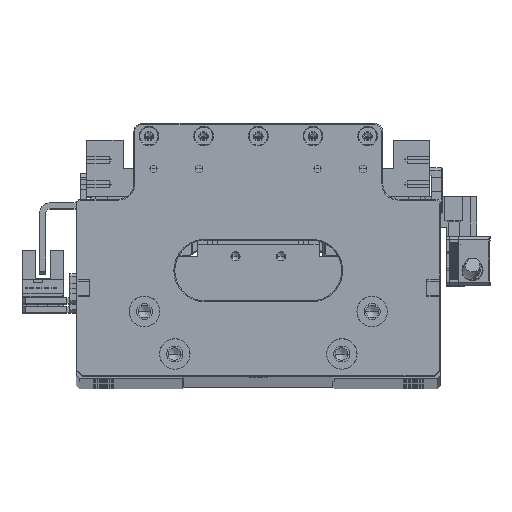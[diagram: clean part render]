
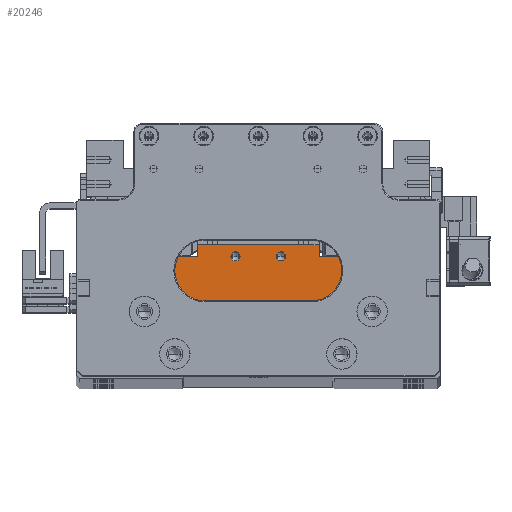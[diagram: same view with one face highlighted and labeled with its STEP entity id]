
A CAD part, top view. The second image highlights one B-rep face of the part: STEP entity #20246.
In plain terms, the highlighted planar face has unit normal (0, 0, 1).
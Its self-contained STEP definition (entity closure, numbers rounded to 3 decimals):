
#781 = VERTEX_POINT ( 'NONE', #91298 ) ;
#782 = CARTESIAN_POINT ( 'NONE',  ( -62.625, 78.98, 462.722 ) ) ;
#2459 = DIRECTION ( 'NONE',  ( 1., 0., 0. ) ) ;
#2929 = ORIENTED_EDGE ( 'NONE', *, *, #95220, .F. ) ;
#4229 = VERTEX_POINT ( 'NONE', #90649 ) ;
#5037 = DIRECTION ( 'NONE',  ( 0., -1., 0. ) ) ;
#5490 = AXIS2_PLACEMENT_3D ( 'NONE', #47531, #121405, #58156 ) ;
#8597 = CARTESIAN_POINT ( 'NONE',  ( -90.125, 71.48, 462.722 ) ) ;
#8913 = CARTESIAN_POINT ( 'NONE',  ( -90.125, 59.78, 462.722 ) ) ;
#10175 = LINE ( 'NONE', #65530, #119361 ) ;
#13093 = FACE_BOUND ( 'NONE', #55616, .T. ) ;
#13234 = CARTESIAN_POINT ( 'NONE',  ( -52.725, 78.98, 462.722 ) ) ;
#14842 = CIRCLE ( 'NONE', #43362, 1.525 ) ;
#15429 = VERTEX_POINT ( 'NONE', #86061 ) ;
#16059 = EDGE_CURVE ( 'NONE', #79520, #19251, #61362, .T. ) ;
#19251 = VERTEX_POINT ( 'NONE', #782 ) ;
#19969 = EDGE_CURVE ( 'NONE', #781, #15429, #14842, .T. ) ;
#20246 = ADVANCED_FACE ( 'NONE', ( #72671, #94116, #13093 ), #40563, .F. ) ;
#21129 = VECTOR ( 'NONE', #58658, 1000. ) ;
#22496 = ORIENTED_EDGE ( 'NONE', *, *, #30063, .F. ) ;
#24850 = EDGE_CURVE ( 'NONE', #125064, #79520, #31971, .T. ) ;
#24871 = ORIENTED_EDGE ( 'NONE', *, *, #93473, .F. ) ;
#25562 = VERTEX_POINT ( 'NONE', #113225 ) ;
#25855 = EDGE_CURVE ( 'NONE', #19251, #43648, #10175, .T. ) ;
#25968 = VERTEX_POINT ( 'NONE', #88531 ) ;
#27926 = CARTESIAN_POINT ( 'NONE',  ( -90.125, 82.98, 462.722 ) ) ;
#28221 = VERTEX_POINT ( 'NONE', #44915 ) ;
#29119 = CARTESIAN_POINT ( 'NONE',  ( -76.65, 79.08, 462.722 ) ) ;
#30063 = EDGE_CURVE ( 'NONE', #43648, #25968, #31080, .T. ) ;
#31080 = LINE ( 'NONE', #48070, #21129 ) ;
#31971 = LINE ( 'NONE', #27926, #50260 ) ;
#34336 = EDGE_CURVE ( 'NONE', #111077, #25562, #118713, .T. ) ;
#36964 = LINE ( 'NONE', #8913, #65011 ) ;
#37766 = ORIENTED_EDGE ( 'NONE', *, *, #34336, .F. ) ;
#39410 = AXIS2_PLACEMENT_3D ( 'NONE', #105281, #42103, #115984 ) ;
#40563 = PLANE ( 'NONE',  #69008 ) ;
#40900 = ORIENTED_EDGE ( 'NONE', *, *, #19969, .F. ) ;
#42103 = DIRECTION ( 'NONE',  ( 0., 0., 1. ) ) ;
#43362 = AXIS2_PLACEMENT_3D ( 'NONE', #121011, #57763, #131618 ) ;
#43648 = VERTEX_POINT ( 'NONE', #13234 ) ;
#44502 = EDGE_CURVE ( 'NONE', #4229, #125064, #51601, .T. ) ;
#44915 = CARTESIAN_POINT ( 'NONE',  ( -112.525, 78.98, 462.722 ) ) ;
#46630 = EDGE_LOOP ( 'NONE', ( #70647, #2929, #66088, #22496, #73667, #57524, #62625, #115420 ) ) ;
#46861 = EDGE_LOOP ( 'NONE', ( #49821, #37766 ) ) ;
#47531 = CARTESIAN_POINT ( 'NONE',  ( -75.125, 79.08, 462.722 ) ) ;
#48070 = CARTESIAN_POINT ( 'NONE',  ( -52.725, 71.48, 462.722 ) ) ;
#49821 = ORIENTED_EDGE ( 'NONE', *, *, #53397, .F. ) ;
#50260 = VECTOR ( 'NONE', #122638, 1000. ) ;
#51254 = DIRECTION ( 'NONE',  ( -1., 0., 0. ) ) ;
#51601 = LINE ( 'NONE', #71990, #76265 ) ;
#52647 = VECTOR ( 'NONE', #123003, 1000. ) ;
#53397 = EDGE_CURVE ( 'NONE', #25562, #111077, #108128, .T. ) ;
#55616 = EDGE_LOOP ( 'NONE', ( #40900, #24871 ) ) ;
#57105 = VECTOR ( 'NONE', #82236, 1000. ) ;
#57524 = ORIENTED_EDGE ( 'NONE', *, *, #16059, .F. ) ;
#57763 = DIRECTION ( 'NONE',  ( 0., 0., 1. ) ) ;
#58156 = DIRECTION ( 'NONE',  ( 1., 0., 0. ) ) ;
#58658 = DIRECTION ( 'NONE',  ( 0., -1., 0. ) ) ;
#61362 = LINE ( 'NONE', #110453, #100936 ) ;
#62625 = ORIENTED_EDGE ( 'NONE', *, *, #24850, .F. ) ;
#65011 = VECTOR ( 'NONE', #82842, 1000. ) ;
#65530 = CARTESIAN_POINT ( 'NONE',  ( -90.125, 78.98, 462.722 ) ) ;
#65847 = DIRECTION ( 'NONE',  ( 0., 0., 1. ) ) ;
#66088 = ORIENTED_EDGE ( 'NONE', *, *, #104252, .T. ) ;
#69008 = AXIS2_PLACEMENT_3D ( 'NONE', #8597, #114495, #51254 ) ;
#70647 = ORIENTED_EDGE ( 'NONE', *, *, #124028, .F. ) ;
#71670 = CARTESIAN_POINT ( 'NONE',  ( -112.525, 71.48, 462.722 ) ) ;
#71990 = CARTESIAN_POINT ( 'NONE',  ( -102.625, 71.48, 462.722 ) ) ;
#72671 = FACE_OUTER_BOUND ( 'NONE', #46630, .T. ) ;
#73667 = ORIENTED_EDGE ( 'NONE', *, *, #25855, .F. ) ;
#76265 = VECTOR ( 'NONE', #114070, 1000. ) ;
#76998 = AXIS2_PLACEMENT_3D ( 'NONE', #129157, #65847, #2459 ) ;
#77367 = VERTEX_POINT ( 'NONE', #107741 ) ;
#78476 = LINE ( 'NONE', #71670, #57105 ) ;
#79520 = VERTEX_POINT ( 'NONE', #114243 ) ;
#80653 = LINE ( 'NONE', #112387, #52647 ) ;
#82236 = DIRECTION ( 'NONE',  ( 0., 1., 0. ) ) ;
#82842 = DIRECTION ( 'NONE',  ( 1., 0., 0. ) ) ;
#86061 = CARTESIAN_POINT ( 'NONE',  ( -91.65, 79.08, 462.722 ) ) ;
#88531 = CARTESIAN_POINT ( 'NONE',  ( -52.725, 59.78, 462.722 ) ) ;
#90649 = CARTESIAN_POINT ( 'NONE',  ( -102.625, 78.98, 462.722 ) ) ;
#91298 = CARTESIAN_POINT ( 'NONE',  ( -88.6, 79.08, 462.722 ) ) ;
#93473 = EDGE_CURVE ( 'NONE', #15429, #781, #105073, .T. ) ;
#93505 = CARTESIAN_POINT ( 'NONE',  ( -102.625, 82.98, 462.722 ) ) ;
#94116 = FACE_BOUND ( 'NONE', #46861, .T. ) ;
#95220 = EDGE_CURVE ( 'NONE', #77367, #28221, #78476, .T. ) ;
#96437 = DIRECTION ( 'NONE',  ( 1., 0., 0. ) ) ;
#100936 = VECTOR ( 'NONE', #5037, 1000. ) ;
#104252 = EDGE_CURVE ( 'NONE', #77367, #25968, #36964, .T. ) ;
#105073 = CIRCLE ( 'NONE', #76998, 1.525 ) ;
#105281 = CARTESIAN_POINT ( 'NONE',  ( -75.125, 79.08, 462.722 ) ) ;
#107741 = CARTESIAN_POINT ( 'NONE',  ( -112.525, 59.78, 462.722 ) ) ;
#108128 = CIRCLE ( 'NONE', #39410, 1.525 ) ;
#110453 = CARTESIAN_POINT ( 'NONE',  ( -62.625, 71.48, 462.722 ) ) ;
#111077 = VERTEX_POINT ( 'NONE', #29119 ) ;
#112387 = CARTESIAN_POINT ( 'NONE',  ( -90.125, 78.98, 462.722 ) ) ;
#113225 = CARTESIAN_POINT ( 'NONE',  ( -73.6, 79.08, 462.722 ) ) ;
#114070 = DIRECTION ( 'NONE',  ( 0., 1., 0. ) ) ;
#114243 = CARTESIAN_POINT ( 'NONE',  ( -62.625, 82.98, 462.722 ) ) ;
#114495 = DIRECTION ( 'NONE',  ( 0., 0., -1. ) ) ;
#115420 = ORIENTED_EDGE ( 'NONE', *, *, #44502, .F. ) ;
#115984 = DIRECTION ( 'NONE',  ( 1., 0., 0. ) ) ;
#118713 = CIRCLE ( 'NONE', #5490, 1.525 ) ;
#119361 = VECTOR ( 'NONE', #96437, 1000. ) ;
#121011 = CARTESIAN_POINT ( 'NONE',  ( -90.125, 79.08, 462.722 ) ) ;
#121405 = DIRECTION ( 'NONE',  ( 0., 0., 1. ) ) ;
#122638 = DIRECTION ( 'NONE',  ( 1., 0., 0. ) ) ;
#123003 = DIRECTION ( 'NONE',  ( 1., 0., 0. ) ) ;
#124028 = EDGE_CURVE ( 'NONE', #28221, #4229, #80653, .T. ) ;
#125064 = VERTEX_POINT ( 'NONE', #93505 ) ;
#129157 = CARTESIAN_POINT ( 'NONE',  ( -90.125, 79.08, 462.722 ) ) ;
#131618 = DIRECTION ( 'NONE',  ( 1., 0., 0. ) ) ;
